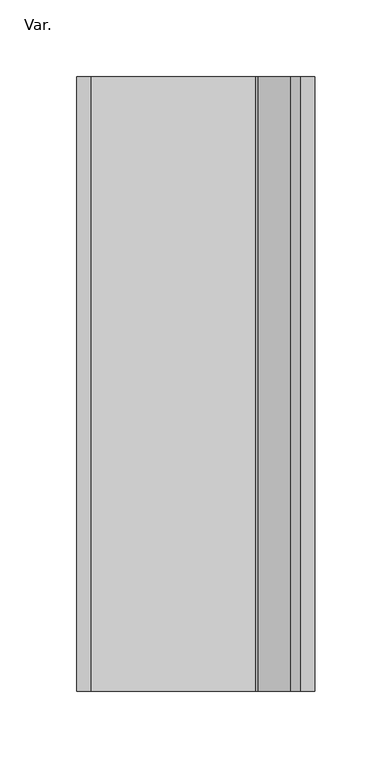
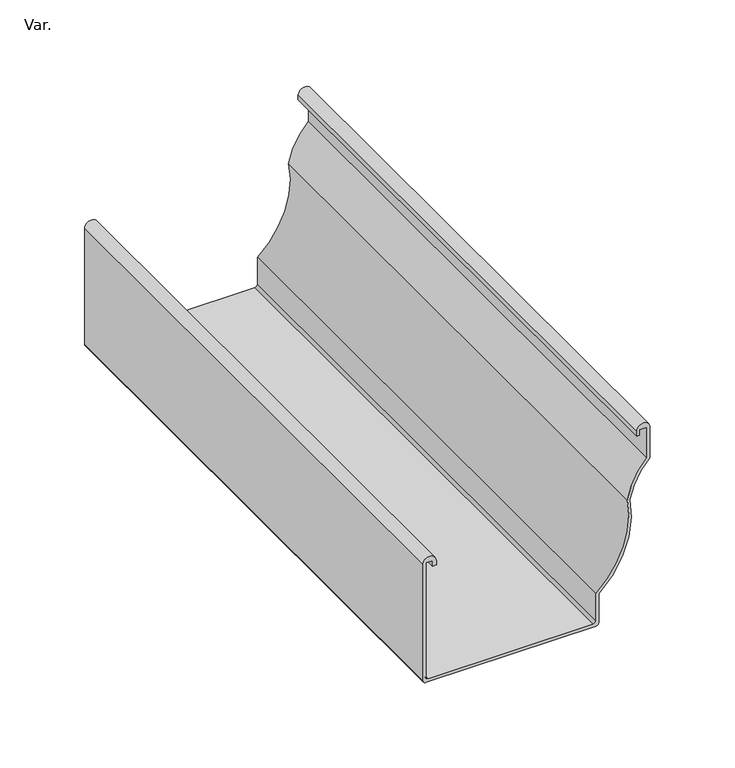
"""IFC4 building model written with IfcOpenShell, lengths in millimetres: pipe fitting geometry, PlastigamaWavin_Unionesdetubería_CanalesyBajantesZ_NoUsarCanal : Var.."""

from ifc_helpers import new_model, si_unit, point, frame, frame_2d, origin, place, context, project, spatial, polyline, circle_curve, trimmed, segment, composite_curve, outline, extrude, source, transform, mapped, element, save


def var_3d1434b5(model_context):
    return source(origin(), model_context, "Body", "SweptSolid", [
        extrude(outline(composite_curve([segment(polyline([(3.96, -75.5194141), (86.2, -75.5194141), (86.2, -70.8), (82.2, -70.8), (82.2, -68.38), (85.44, -68.38)]), True, "CONTINUOUS"), segment(trimmed(circle_curve(frame_2d((85.44, -72.94)), 4.56), [point((85.44, -68.38))], [point((85.44, -77.5))], False, "CARTESIAN"), True, "CONTINUOUS"), segment(polyline([(85.44, -77.5), (1.98, -77.5)]), True, "CONTINUOUS"), segment(trimmed(circle_curve(frame_2d((1.98, -75.52)), 1.98), [point((1.98, -77.5))], [point((0.0, -75.52))], False, "CARTESIAN"), True, "CONTINUOUS"), segment(polyline([(0.0, -75.52), (0.0, 40.52)]), True, "CONTINUOUS"), segment(trimmed(circle_curve(frame_2d((1.98, 40.52)), 1.98), [point((0.0, 40.52))], [point((1.98, 42.5))], False, "CARTESIAN"), True, "CONTINUOUS"), segment(polyline([(1.98, 42.5), (22.5176754, 42.5)]), True, "CONTINUOUS"), segment(trimmed(circle_curve(frame_2d((71.7727075, -0.3252896)), 65.2691628), [point((22.5176754, 42.5))], [point((83.3830495, 63.9029252))], False, "CARTESIAN"), True, "CONTINUOUS"), segment(trimmed(circle_curve(frame_2d((74.7303208, 109.7560782)), 46.6624191), [point((83.3830495, 63.9029252))], [point((108.4486656, 77.5))], True, "CARTESIAN"), True, "CONTINUOUS"), segment(polyline([(108.4486656, 77.5), (130.44, 77.5)]), True, "CONTINUOUS"), segment(trimmed(circle_curve(frame_2d((130.44, 72.94)), 4.56), [point((130.44, 77.5))], [point((130.44, 68.38))], False, "CARTESIAN"), True, "CONTINUOUS"), segment(polyline([(130.44, 68.38), (127.2, 68.38), (127.2, 70.4), (131.2, 70.4), (131.2, 75.5194141), (109.2842769, 75.5194141)]), True, "CONTINUOUS"), segment(trimmed(circle_curve(frame_2d((74.7303208, 109.7560782)), 48.6428315), [point((109.2842769, 75.5194141))], [point((83.3777963, 61.8880699))], False, "CARTESIAN"), True, "CONTINUOUS"), segment(trimmed(circle_curve(frame_2d((71.7727075, -0.3252896)), 63.2864928), [point((83.3777963, 61.8880699))], [point((23.4318086, 40.52))], True, "CARTESIAN"), True, "CONTINUOUS"), segment(polyline([(23.4318086, 40.52), (3.96, 40.52)]), True, "CONTINUOUS"), segment(trimmed(circle_curve(frame_2d((3.96, 38.54)), 1.98), [point((3.96, 40.52))], [point((1.98, 38.54))], True, "CARTESIAN"), True, "CONTINUOUS"), segment(polyline([(1.98, 38.54), (1.98, -73.5394141)]), True, "CONTINUOUS"), segment(trimmed(circle_curve(frame_2d((3.96, -73.5394141)), 1.98), [point((1.98, -73.5394141))], [point((3.96, -75.5194141))], True, "CARTESIAN"), True, "CONTINUOUS")], self_intersect=False)), frame((0.0, 0.0, 0.0), z_axis=(0.0, 1.0, 0.0), x_axis=(0.0, 0.0, 1.0)), (0.0, 0.0, 1.0), 400.0),
    ])


if __name__ == "__main__":
    model = new_model("IFC4")
    model_context = context("Model", 3, world=origin())
    ifc_project = project(units=[si_unit("LENGTHUNIT", "METRE", prefix="MILLI")], contexts=[model_context])
    site = spatial("IfcSite", under=ifc_project)
    building = spatial("IfcBuilding", under=site)
    placement = place(None, origin())
    var_shape = var_3d1434b5(model_context)
    element("IfcPipeFitting", 1, ObjectType="PlastigamaWavin_Unionesdetubería_CanalesyBajantesZ_NoUsarCanal : Var.", at=placement, inside=building, context=model_context, shape_type="MappedRepresentation", body=[
        mapped(var_shape, transform((0.0, 0.0, 0.0), x_axis=(1.0, 0.0, 0.0), y_axis=(0.0, 1.0, 0.0), z_axis=(0.0, 0.0, 1.0))),
    ])
    save(model, "model.ifc")
